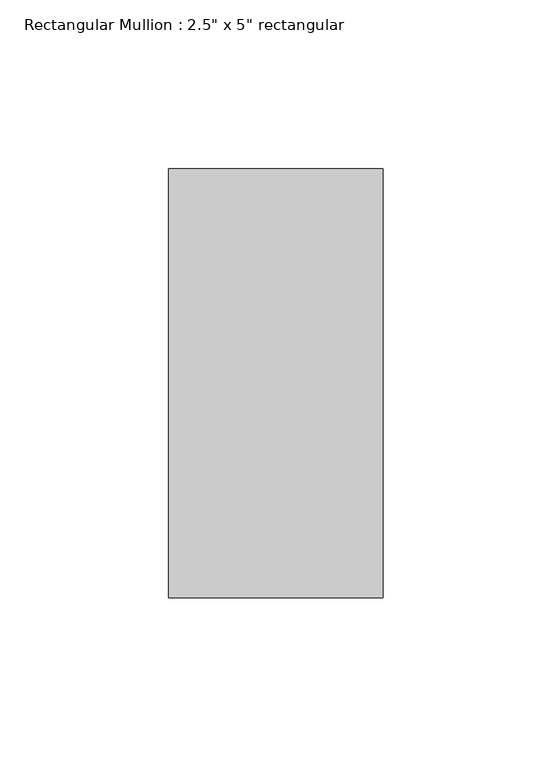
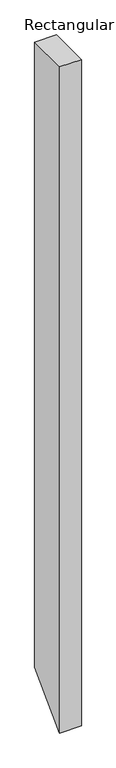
"""IFC4 building model written with IfcOpenShell, lengths in millimetres: member geometry."""

from ifc_helpers import new_model, si_unit, frame, origin, place, context, project, spatial, polyline, outline, extrude, source, transform, mapped, element, save


def member_ed0d6930(model_context):
    return source(origin(), model_context, "Body", "SweptSolid", [
        extrude(outline(polyline([(-76.2, 0.0), (50.8, 0.0), (50.8, -1937.8083333), (-76.2, -2064.8083333), (-76.2, 0.0)])), frame((-63.5, 0.0, 0.0), z_axis=(1.0, 0.0, 0.0), x_axis=(0.0, 1.0, 0.0)), (0.0, 0.0, 1.0), 63.5),
    ])


if __name__ == "__main__":
    model = new_model("IFC4")
    model_context = context("Model", 3, world=origin())
    ifc_project = project(units=[si_unit("LENGTHUNIT", "METRE", prefix="MILLI")], contexts=[model_context])
    site = spatial("IfcSite", under=ifc_project)
    building = spatial("IfcBuilding", under=site)
    placement = place(None, origin())
    member_shape = member_ed0d6930(model_context)
    element("IfcMember", 1, ObjectType="Rectangular Mullion : 2.5\" x 5\" rectangular", at=placement, inside=building, context=model_context, shape_type="MappedRepresentation", body=[
        mapped(member_shape, transform((0.0, 0.0, 0.0), x_axis=(1.0, 0.0, 0.0), y_axis=(0.0, 1.0, 0.0), z_axis=(0.0, 0.0, 1.0))),
    ])
    save(model, "model.ifc")
